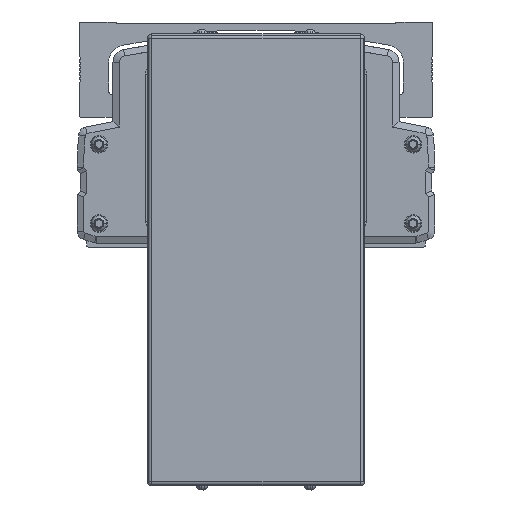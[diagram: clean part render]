
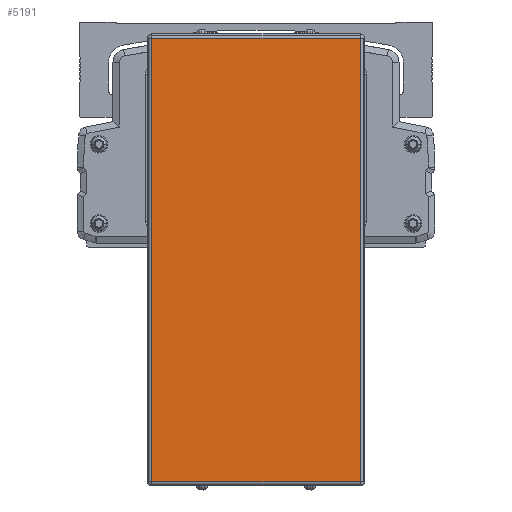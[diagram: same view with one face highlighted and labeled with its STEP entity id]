
A CAD part, front view. The second image highlights one B-rep face of the part: STEP entity #5191.
In plain terms, the highlighted planar face has unit normal (0, -1, 0).
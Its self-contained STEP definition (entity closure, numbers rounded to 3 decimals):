
#5191=ADVANCED_FACE('',(#11212),#11213,.T.);
#11212=FACE_OUTER_BOUND('',#19158,.T.);
#11213=PLANE('',#19159);
#19158=EDGE_LOOP('',(#35524,#35525,#35526,#35527));
#19159=AXIS2_PLACEMENT_3D('',#35528,#35529,#35530);
#35524=ORIENTED_EDGE('',*,*,#49161,.F.);
#35525=ORIENTED_EDGE('',*,*,#43571,.F.);
#35526=ORIENTED_EDGE('',*,*,#49162,.F.);
#35527=ORIENTED_EDGE('',*,*,#49163,.F.);
#35528=CARTESIAN_POINT('',(-600.,-72.778,-57.8));
#35529=DIRECTION('',(0.,-1.0,0.));
#35530=DIRECTION('',(0.,0.,-1.0));
#43571=EDGE_CURVE('',#51964,#51265,#51966,.T.);
#49161=EDGE_CURVE('',#51265,#60537,#60538,.T.);
#49162=EDGE_CURVE('',#55001,#51964,#60539,.T.);
#49163=EDGE_CURVE('',#60537,#55001,#60540,.T.);
#51265=VERTEX_POINT('',#63040);
#51964=VERTEX_POINT('',#64049);
#51966=LINE('',#64051,#64052);
#55001=VERTEX_POINT('',#68388);
#60537=VERTEX_POINT('',#77021);
#60538=LINE('',#77022,#77023);
#60539=LINE('',#77024,#77025);
#60540=LINE('',#77026,#77027);
#63040=CARTESIAN_POINT('',(-648.,-72.778,44.5));
#64049=CARTESIAN_POINT('',(-648.,-72.778,-160.1));
#64051=CARTESIAN_POINT('',(-648.,-72.778,-57.8));
#64052=VECTOR('',#80463,10.0);
#68388=CARTESIAN_POINT('',(-552.,-72.778,-160.1));
#77021=CARTESIAN_POINT('',(-552.,-72.778,44.5));
#77022=CARTESIAN_POINT('',(-600.,-72.778,44.5));
#77023=VECTOR('',#87545,10.0);
#77024=CARTESIAN_POINT('',(-600.,-72.778,-160.1));
#77025=VECTOR('',#87546,10.0);
#77026=CARTESIAN_POINT('',(-552.,-72.778,-57.8));
#77027=VECTOR('',#87547,10.0);
#80463=DIRECTION('',(0.,0.,1.0));
#87545=DIRECTION('',(1.0,0.,0.));
#87546=DIRECTION('',(-1.0,0.,0.));
#87547=DIRECTION('',(0.,0.,-1.0));
